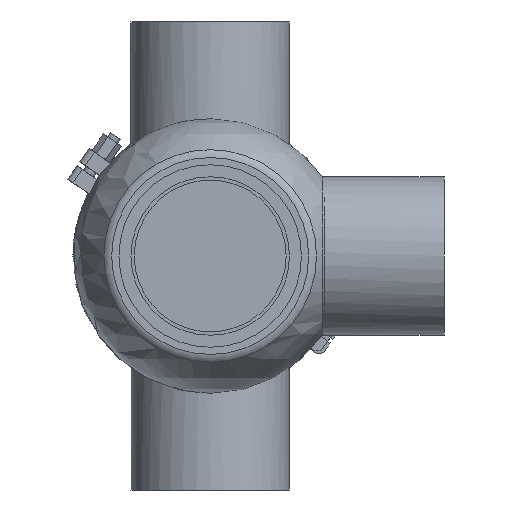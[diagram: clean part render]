
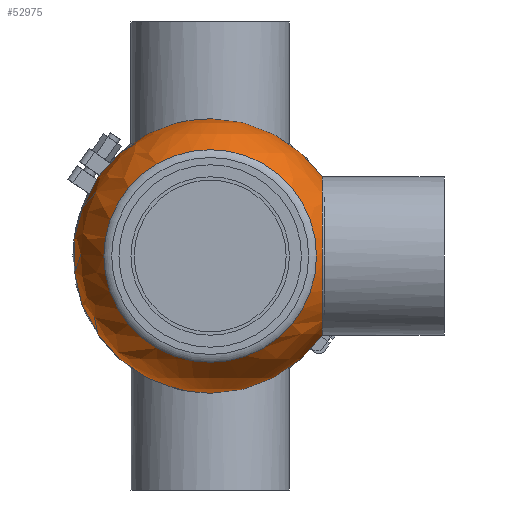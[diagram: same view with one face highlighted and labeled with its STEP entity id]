
A CAD part, front view. The second image highlights one B-rep face of the part: STEP entity #52975.
In plain terms, the highlighted spherical face has radius 88 mm.
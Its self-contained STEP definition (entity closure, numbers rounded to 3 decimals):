
#191 = AXIS2_PLACEMENT_3D ( 'NONE', #52396, #61374, #56717 ) ;
#424 = EDGE_CURVE ( 'NONE', #41041, #59137, #58984, .T. ) ;
#5379 = DIRECTION ( 'NONE',  ( 0., 0., 1. ) ) ;
#5702 = ORIENTED_EDGE ( 'NONE', *, *, #30999, .F. ) ;
#9445 = DIRECTION ( 'NONE',  ( 0., 1., 0. ) ) ;
#11956 = DIRECTION ( 'NONE',  ( 0., 1., 0. ) ) ;
#13291 = ORIENTED_EDGE ( 'NONE', *, *, #51467, .T. ) ;
#15407 = AXIS2_PLACEMENT_3D ( 'NONE', #28940, #47888, #5379 ) ;
#16005 = AXIS2_PLACEMENT_3D ( 'NONE', #39878, #11956, #59143 ) ;
#18437 = EDGE_LOOP ( 'NONE', ( #13291 ) ) ;
#22798 = DIRECTION ( 'NONE',  ( 0., 0., 1. ) ) ;
#23404 = CARTESIAN_POINT ( 'NONE',  ( 0., 50.239, 0. ) ) ;
#28940 = CARTESIAN_POINT ( 'NONE',  ( 71.857, 0., 0. ) ) ;
#30999 = EDGE_CURVE ( 'NONE', #59137, #41041, #32900, .T. ) ;
#32900 = CIRCLE ( 'NONE', #54788, 72.25 ) ;
#33409 = SPHERICAL_SURFACE ( 'NONE', #191, 88. ) ;
#39878 = CARTESIAN_POINT ( 'NONE',  ( 0., -55.643, 0. ) ) ;
#41041 = VERTEX_POINT ( 'NONE', #45872 ) ;
#41780 = FACE_OUTER_BOUND ( 'NONE', #18437, .T. ) ;
#42080 = FACE_OUTER_BOUND ( 'NONE', #44855, .T. ) ;
#44815 = CARTESIAN_POINT ( 'NONE',  ( 71.857, 50.239, -7.53 ) ) ;
#44855 = EDGE_LOOP ( 'NONE', ( #46154, #5702 ) ) ;
#45872 = CARTESIAN_POINT ( 'NONE',  ( 71.857, 50.239, 7.53 ) ) ;
#46154 = ORIENTED_EDGE ( 'NONE', *, *, #424, .F. ) ;
#47888 = DIRECTION ( 'NONE',  ( 1., 0., 0. ) ) ;
#48674 = CIRCLE ( 'NONE', #16005, 68.175 ) ;
#51467 = EDGE_CURVE ( 'NONE', #51762, #51762, #48674, .T. ) ;
#51762 = VERTEX_POINT ( 'NONE', #57966 ) ;
#52396 = CARTESIAN_POINT ( 'NONE',  ( 0., 0., 0. ) ) ;
#52975 = ADVANCED_FACE ( 'NONE', ( #42080, #41780 ), #33409, .T. ) ;
#54788 = AXIS2_PLACEMENT_3D ( 'NONE', #23404, #9445, #22798 ) ;
#56717 = DIRECTION ( 'NONE',  ( -1., 0., 0. ) ) ;
#57966 = CARTESIAN_POINT ( 'NONE',  ( 0., -55.643, 68.175 ) ) ;
#58984 = CIRCLE ( 'NONE', #15407, 50.8 ) ;
#59137 = VERTEX_POINT ( 'NONE', #44815 ) ;
#59143 = DIRECTION ( 'NONE',  ( 0., 0., 1. ) ) ;
#61374 = DIRECTION ( 'NONE',  ( 0., 0., 1. ) ) ;
